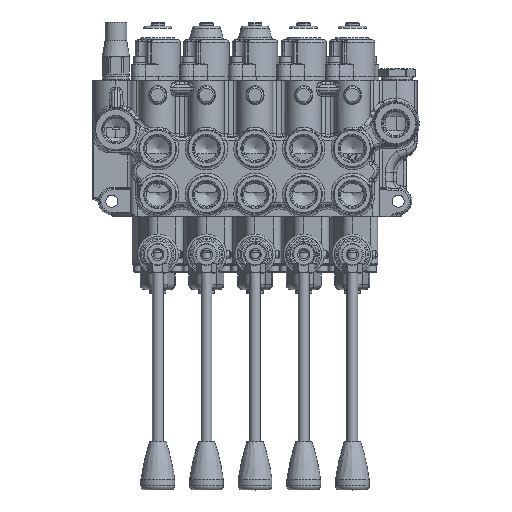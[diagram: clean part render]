
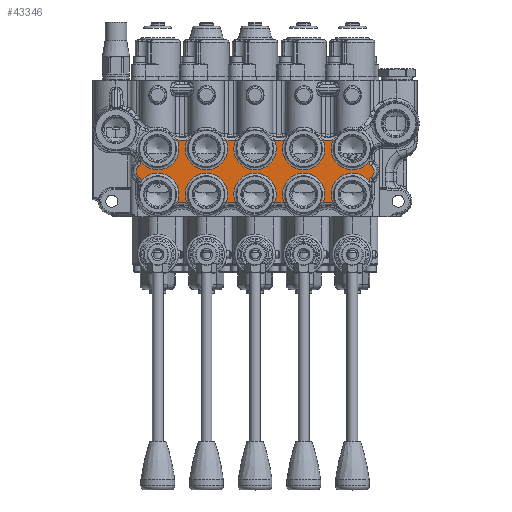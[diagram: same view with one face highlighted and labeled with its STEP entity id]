
A CAD part, top view. The second image highlights one B-rep face of the part: STEP entity #43346.
In plain terms, the highlighted planar face has unit normal (0, 0, 1).
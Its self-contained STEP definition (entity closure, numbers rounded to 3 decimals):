
#1772=CIRCLE('',#46306,16.898);
#1773=CIRCLE('',#46308,16.898);
#1776=CIRCLE('',#46313,15.749);
#1779=CIRCLE('',#46317,15.749);
#1781=CIRCLE('',#46320,15.749);
#1782=CIRCLE('',#46321,16.898);
#1783=CIRCLE('',#46322,15.749);
#1784=CIRCLE('',#46323,16.898);
#1785=CIRCLE('',#46324,15.749);
#1786=CIRCLE('',#46325,16.898);
#1787=CIRCLE('',#46326,15.749);
#1788=CIRCLE('',#46327,4.398);
#1789=CIRCLE('',#46328,5.102);
#1790=CIRCLE('',#46329,4.398);
#1791=CIRCLE('',#46330,15.749);
#1792=CIRCLE('',#46331,16.898);
#1793=CIRCLE('',#46332,15.749);
#1794=CIRCLE('',#46333,16.898);
#1795=CIRCLE('',#46334,15.749);
#1796=CIRCLE('',#46335,16.898);
#1797=CIRCLE('',#46336,15.749);
#1798=CIRCLE('',#46337,4.898);
#1799=CIRCLE('',#46338,5.102);
#1800=CIRCLE('',#46339,4.398);
#7478=FACE_OUTER_BOUND('',#10004,.T.);
#10004=EDGE_LOOP('',(#28631,#28632,#28633,#28634,#28635,#28636,#28637,#28638,
#28639,#28640,#28641,#28642,#28643,#28644,#28645,#28646,#28647,#28648,#28649,
#28650,#28651,#28652,#28653,#28654));
#16636=VERTEX_POINT('',#75638);
#16637=VERTEX_POINT('',#75639);
#16640=VERTEX_POINT('',#75888);
#16641=VERTEX_POINT('',#75983);
#16647=VERTEX_POINT('',#76294);
#16649=VERTEX_POINT('',#76559);
#16652=VERTEX_POINT('',#76681);
#16653=VERTEX_POINT('',#76683);
#16654=VERTEX_POINT('',#76685);
#16655=VERTEX_POINT('',#76687);
#16656=VERTEX_POINT('',#76689);
#16657=VERTEX_POINT('',#76691);
#16658=VERTEX_POINT('',#76693);
#16659=VERTEX_POINT('',#76695);
#16660=VERTEX_POINT('',#76697);
#16661=VERTEX_POINT('',#76699);
#16662=VERTEX_POINT('',#76701);
#16663=VERTEX_POINT('',#76703);
#16664=VERTEX_POINT('',#76705);
#16665=VERTEX_POINT('',#76707);
#16666=VERTEX_POINT('',#76709);
#16667=VERTEX_POINT('',#76711);
#16668=VERTEX_POINT('',#76714);
#16669=VERTEX_POINT('',#76716);
#21283=EDGE_CURVE('',#16636,#16637,#1772,.T.);
#21289=EDGE_CURVE('',#16641,#16640,#1773,.T.);
#21301=EDGE_CURVE('',#16637,#16647,#1776,.T.);
#21307=EDGE_CURVE('',#16649,#16641,#1779,.T.);
#21314=EDGE_CURVE('',#16640,#16652,#1781,.T.);
#21315=EDGE_CURVE('',#16652,#16653,#1782,.T.);
#21316=EDGE_CURVE('',#16653,#16654,#1783,.T.);
#21317=EDGE_CURVE('',#16654,#16655,#1784,.T.);
#21318=EDGE_CURVE('',#16655,#16656,#1785,.T.);
#21319=EDGE_CURVE('',#16656,#16657,#1786,.T.);
#21320=EDGE_CURVE('',#16657,#16658,#1787,.T.);
#21321=EDGE_CURVE('',#16658,#16659,#1788,.T.);
#21322=EDGE_CURVE('',#16659,#16660,#1789,.F.);
#21323=EDGE_CURVE('',#16660,#16661,#1790,.T.);
#21324=EDGE_CURVE('',#16661,#16662,#1791,.T.);
#21325=EDGE_CURVE('',#16662,#16663,#1792,.T.);
#21326=EDGE_CURVE('',#16663,#16664,#1793,.T.);
#21327=EDGE_CURVE('',#16664,#16665,#1794,.T.);
#21328=EDGE_CURVE('',#16665,#16666,#1795,.T.);
#21329=EDGE_CURVE('',#16666,#16667,#1796,.T.);
#21330=EDGE_CURVE('',#16667,#16636,#1797,.T.);
#21331=EDGE_CURVE('',#16647,#16668,#1798,.T.);
#21332=EDGE_CURVE('',#16668,#16669,#1799,.F.);
#21333=EDGE_CURVE('',#16669,#16649,#1800,.T.);
#28631=ORIENTED_EDGE('',*,*,#21289,.T.);
#28632=ORIENTED_EDGE('',*,*,#21314,.T.);
#28633=ORIENTED_EDGE('',*,*,#21315,.T.);
#28634=ORIENTED_EDGE('',*,*,#21316,.T.);
#28635=ORIENTED_EDGE('',*,*,#21317,.T.);
#28636=ORIENTED_EDGE('',*,*,#21318,.T.);
#28637=ORIENTED_EDGE('',*,*,#21319,.T.);
#28638=ORIENTED_EDGE('',*,*,#21320,.T.);
#28639=ORIENTED_EDGE('',*,*,#21321,.T.);
#28640=ORIENTED_EDGE('',*,*,#21322,.T.);
#28641=ORIENTED_EDGE('',*,*,#21323,.T.);
#28642=ORIENTED_EDGE('',*,*,#21324,.T.);
#28643=ORIENTED_EDGE('',*,*,#21325,.T.);
#28644=ORIENTED_EDGE('',*,*,#21326,.T.);
#28645=ORIENTED_EDGE('',*,*,#21327,.T.);
#28646=ORIENTED_EDGE('',*,*,#21328,.T.);
#28647=ORIENTED_EDGE('',*,*,#21329,.T.);
#28648=ORIENTED_EDGE('',*,*,#21330,.T.);
#28649=ORIENTED_EDGE('',*,*,#21283,.T.);
#28650=ORIENTED_EDGE('',*,*,#21301,.T.);
#28651=ORIENTED_EDGE('',*,*,#21331,.T.);
#28652=ORIENTED_EDGE('',*,*,#21332,.T.);
#28653=ORIENTED_EDGE('',*,*,#21333,.T.);
#28654=ORIENTED_EDGE('',*,*,#21307,.T.);
#40035=PLANE('',#46319);
#43346=ADVANCED_FACE('',(#7478),#40035,.F.);
#46306=AXIS2_PLACEMENT_3D('',#75640,#52522,#52523);
#46308=AXIS2_PLACEMENT_3D('',#75984,#52526,#52527);
#46313=AXIS2_PLACEMENT_3D('',#76311,#52536,#52537);
#46317=AXIS2_PLACEMENT_3D('',#76560,#52544,#52545);
#46319=AXIS2_PLACEMENT_3D('',#76680,#52548,#52549);
#46320=AXIS2_PLACEMENT_3D('',#76682,#52550,#52551);
#46321=AXIS2_PLACEMENT_3D('',#76684,#52552,#52553);
#46322=AXIS2_PLACEMENT_3D('',#76686,#52554,#52555);
#46323=AXIS2_PLACEMENT_3D('',#76688,#52556,#52557);
#46324=AXIS2_PLACEMENT_3D('',#76690,#52558,#52559);
#46325=AXIS2_PLACEMENT_3D('',#76692,#52560,#52561);
#46326=AXIS2_PLACEMENT_3D('',#76694,#52562,#52563);
#46327=AXIS2_PLACEMENT_3D('',#76696,#52564,#52565);
#46328=AXIS2_PLACEMENT_3D('',#76698,#52566,#52567);
#46329=AXIS2_PLACEMENT_3D('',#76700,#52568,#52569);
#46330=AXIS2_PLACEMENT_3D('',#76702,#52570,#52571);
#46331=AXIS2_PLACEMENT_3D('',#76704,#52572,#52573);
#46332=AXIS2_PLACEMENT_3D('',#76706,#52574,#52575);
#46333=AXIS2_PLACEMENT_3D('',#76708,#52576,#52577);
#46334=AXIS2_PLACEMENT_3D('',#76710,#52578,#52579);
#46335=AXIS2_PLACEMENT_3D('',#76712,#52580,#52581);
#46336=AXIS2_PLACEMENT_3D('',#76713,#52582,#52583);
#46337=AXIS2_PLACEMENT_3D('',#76715,#52584,#52585);
#46338=AXIS2_PLACEMENT_3D('',#76717,#52586,#52587);
#46339=AXIS2_PLACEMENT_3D('',#76718,#52588,#52589);
#52522=DIRECTION('center_axis',(0.,0.,-1.));
#52523=DIRECTION('ref_axis',(-1.,0.,0.));
#52526=DIRECTION('center_axis',(0.,0.,-1.));
#52527=DIRECTION('ref_axis',(-1.,0.,0.));
#52536=DIRECTION('center_axis',(0.,0.,-1.));
#52537=DIRECTION('ref_axis',(-1.,0.,0.));
#52544=DIRECTION('center_axis',(0.,0.,-1.));
#52545=DIRECTION('ref_axis',(-1.,0.,0.));
#52548=DIRECTION('center_axis',(0.,0.,-1.));
#52549=DIRECTION('ref_axis',(-1.,0.,0.));
#52550=DIRECTION('center_axis',(0.,0.,-1.));
#52551=DIRECTION('ref_axis',(-1.,0.,0.));
#52552=DIRECTION('center_axis',(0.,0.,-1.));
#52553=DIRECTION('ref_axis',(-1.,0.,0.));
#52554=DIRECTION('center_axis',(0.,0.,-1.));
#52555=DIRECTION('ref_axis',(-1.,0.,0.));
#52556=DIRECTION('center_axis',(0.,0.,-1.));
#52557=DIRECTION('ref_axis',(-1.,0.,0.));
#52558=DIRECTION('center_axis',(0.,0.,-1.));
#52559=DIRECTION('ref_axis',(-1.,0.,0.));
#52560=DIRECTION('center_axis',(0.,0.,-1.));
#52561=DIRECTION('ref_axis',(-1.,0.,0.));
#52562=DIRECTION('center_axis',(0.,0.,-1.));
#52563=DIRECTION('ref_axis',(-1.,0.,0.));
#52564=DIRECTION('center_axis',(0.,0.,-1.));
#52565=DIRECTION('ref_axis',(-1.,0.,0.));
#52566=DIRECTION('center_axis',(0.,0.,-1.));
#52567=DIRECTION('ref_axis',(-1.,0.,0.));
#52568=DIRECTION('center_axis',(0.,0.,-1.));
#52569=DIRECTION('ref_axis',(-1.,0.,0.));
#52570=DIRECTION('center_axis',(0.,0.,-1.));
#52571=DIRECTION('ref_axis',(-1.,0.,0.));
#52572=DIRECTION('center_axis',(0.,0.,-1.));
#52573=DIRECTION('ref_axis',(-1.,0.,0.));
#52574=DIRECTION('center_axis',(0.,0.,-1.));
#52575=DIRECTION('ref_axis',(-1.,0.,0.));
#52576=DIRECTION('center_axis',(0.,0.,-1.));
#52577=DIRECTION('ref_axis',(-1.,0.,0.));
#52578=DIRECTION('center_axis',(0.,0.,-1.));
#52579=DIRECTION('ref_axis',(-1.,0.,0.));
#52580=DIRECTION('center_axis',(0.,0.,-1.));
#52581=DIRECTION('ref_axis',(-1.,0.,0.));
#52582=DIRECTION('center_axis',(0.,0.,-1.));
#52583=DIRECTION('ref_axis',(-1.,0.,0.));
#52584=DIRECTION('center_axis',(0.,0.,-1.));
#52585=DIRECTION('ref_axis',(-1.,0.,0.));
#52586=DIRECTION('center_axis',(0.,0.,-1.));
#52587=DIRECTION('ref_axis',(-1.,0.,0.));
#52588=DIRECTION('center_axis',(0.,0.,-1.));
#52589=DIRECTION('ref_axis',(-1.,0.,0.));
#75638=CARTESIAN_POINT('',(21.589,6.353,39.5));
#75639=CARTESIAN_POINT('',(14.411,6.353,39.5));
#75640=CARTESIAN_POINT('Origin',(18.,22.865,39.5));
#75888=CARTESIAN_POINT('',(21.589,-40.353,39.5));
#75983=CARTESIAN_POINT('',(14.411,-40.353,39.5));
#75984=CARTESIAN_POINT('Origin',(18.,-56.865,39.5));
#76294=CARTESIAN_POINT('',(-12.286,-9.852,39.5));
#76311=CARTESIAN_POINT('Origin',(0.,0.,39.5));
#76559=CARTESIAN_POINT('',(-12.241,-24.091,39.5));
#76560=CARTESIAN_POINT('Origin',(0.,-34.,39.5));
#76680=CARTESIAN_POINT('Origin',(36.,-34.,39.5));
#76681=CARTESIAN_POINT('',(50.411,-40.353,39.5));
#76682=CARTESIAN_POINT('Origin',(36.,-34.,39.5));
#76683=CARTESIAN_POINT('',(57.589,-40.353,39.5));
#76684=CARTESIAN_POINT('Origin',(54.,-56.865,39.5));
#76685=CARTESIAN_POINT('',(86.411,-40.353,39.5));
#76686=CARTESIAN_POINT('Origin',(72.,-34.,39.5));
#76687=CARTESIAN_POINT('',(93.589,-40.353,39.5));
#76688=CARTESIAN_POINT('Origin',(90.,-56.865,39.5));
#76689=CARTESIAN_POINT('',(122.411,-40.353,39.5));
#76690=CARTESIAN_POINT('Origin',(108.,-34.,39.5));
#76691=CARTESIAN_POINT('',(129.589,-40.353,39.5));
#76692=CARTESIAN_POINT('Origin',(126.,-56.865,39.5));
#76693=CARTESIAN_POINT('',(156.241,-24.091,39.5));
#76694=CARTESIAN_POINT('Origin',(144.,-34.,39.5));
#76695=CARTESIAN_POINT('',(158.008,-21.121,39.5));
#76696=CARTESIAN_POINT('Origin',(160.6,-24.674,39.5));
#76697=CARTESIAN_POINT('',(158.008,-12.879,39.5));
#76698=CARTESIAN_POINT('Origin',(155.,-17.,39.5));
#76699=CARTESIAN_POINT('',(156.241,-9.909,39.5));
#76700=CARTESIAN_POINT('Origin',(160.6,-9.326,39.5));
#76701=CARTESIAN_POINT('',(129.589,6.353,39.5));
#76702=CARTESIAN_POINT('Origin',(144.,0.,39.5));
#76703=CARTESIAN_POINT('',(122.411,6.353,39.5));
#76704=CARTESIAN_POINT('Origin',(126.,22.865,39.5));
#76705=CARTESIAN_POINT('',(93.589,6.353,39.5));
#76706=CARTESIAN_POINT('Origin',(108.,0.,39.5));
#76707=CARTESIAN_POINT('',(86.411,6.353,39.5));
#76708=CARTESIAN_POINT('Origin',(90.,22.865,39.5));
#76709=CARTESIAN_POINT('',(57.589,6.353,39.5));
#76710=CARTESIAN_POINT('Origin',(72.,0.,39.5));
#76711=CARTESIAN_POINT('',(50.411,6.353,39.5));
#76712=CARTESIAN_POINT('Origin',(54.,22.865,39.5));
#76713=CARTESIAN_POINT('Origin',(36.,0.,39.5));
#76714=CARTESIAN_POINT('',(-14.125,-12.967,39.5));
#76715=CARTESIAN_POINT('Origin',(-17.125,-9.096,39.5));
#76716=CARTESIAN_POINT('',(-14.008,-21.121,39.5));
#76717=CARTESIAN_POINT('Origin',(-11.,-17.,39.5));
#76718=CARTESIAN_POINT('Origin',(-16.6,-24.674,39.5));
